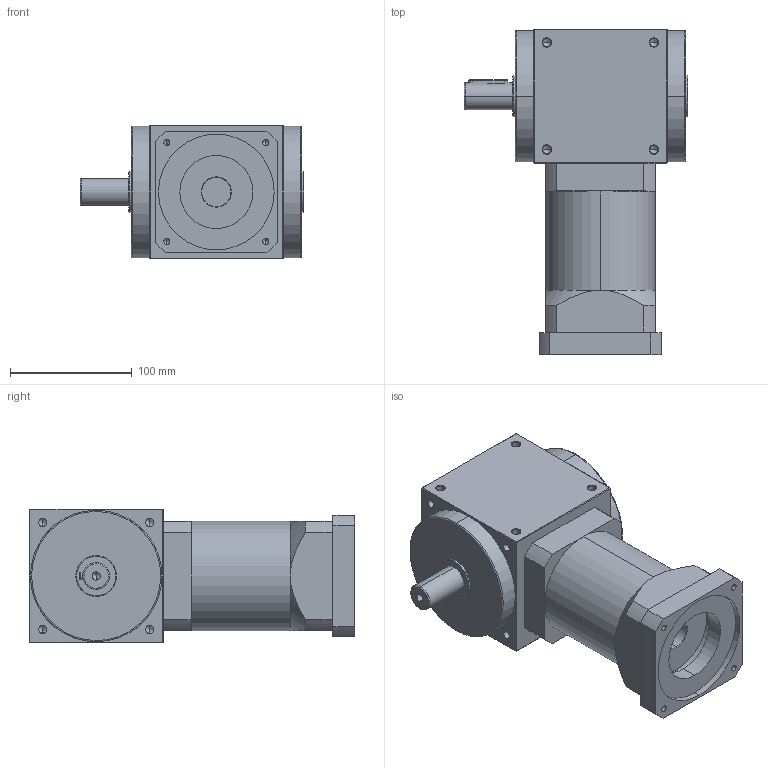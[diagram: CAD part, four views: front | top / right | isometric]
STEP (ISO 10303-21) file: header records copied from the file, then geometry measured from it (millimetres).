
FILE_DESCRIPTION (( 'STEP AP214' ), '1' );
FILE_NAME ('AT110-FL-L2 -24-95-115-M6.STEP', '2020-11-10T08:10:04', ( '微软用户' ), ( '微软中国' ), 'SwSTEP 2.0', 'SolidWorks 2014', '' );
FILE_SCHEMA (( 'AUTOMOTIVE_DESIGN' ));
Length unit declared in the file: millimetre
Products named in the file (2): AT110-FL-L2 -24-95-115-M6
Bounding box: 184 x 267.5 x 110 mm (x, y, z)
Volume: 2639063.3 mm3; surface area: 159323.3 mm2
Topology: 1 solids, 1 shells, 268 faces, 684 edges, 381 vertices
Faces by surface type: cylinder 124, cone 76, plane 62, bspline 6
Entity records: 10843 total; most frequent: CARTESIAN_POINT 1911, ORIENTED_EDGE 1268, DIRECTION 1234, EDGE_CURVE 634, AXIS2_PLACEMENT_3D 472, VERTEX_POINT 381, EDGE_LOOP 305, LINE 290
